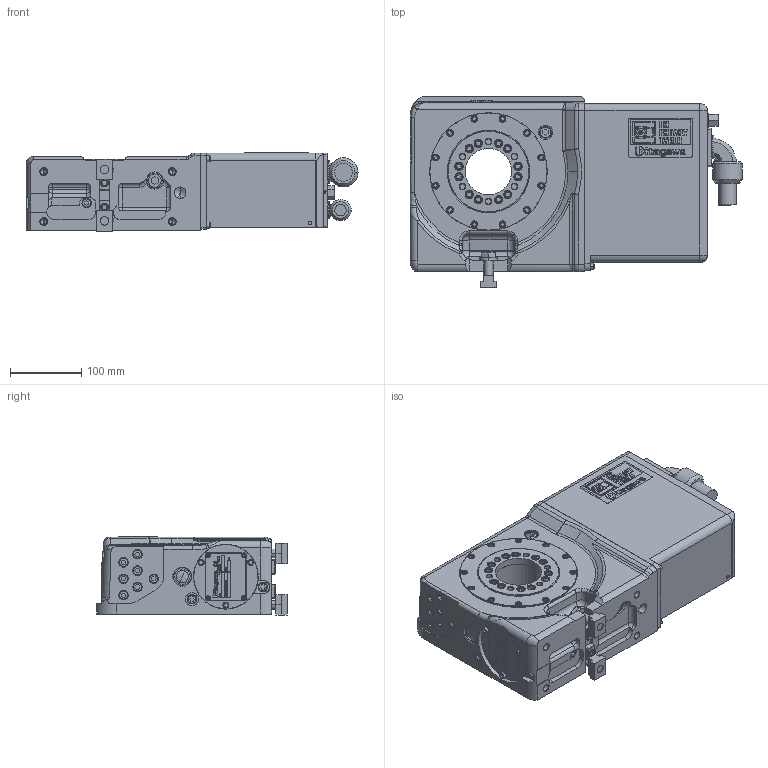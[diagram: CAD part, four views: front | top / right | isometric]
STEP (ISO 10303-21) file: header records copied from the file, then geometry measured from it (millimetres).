
FILE_DESCRIPTION (( 'STEP AP214' ), '1' );
FILE_NAME ('【掲載用】CK160付加軸右勝手.STEP', '2019-10-10T04:39:04', ( '' ), ( '' ), 'SwSTEP 2.0', 'SolidWorks 2017', '' );
FILE_SCHEMA (( 'AUTOMOTIVE_DESIGN' ));
Length unit declared in the file: millimetre
Products named in the file (23): シリンダ(61E8157592)CK160R00; ベアリングプッシュプレート(61E8145801)CKR160R00; クランプキミタテ(61E473251)CK160D1; テーブル(61E8145702)CKR160R00; Tスロットナット１４１２; ベース(61E1132036)CKR160R00; B パーカ　M12×40; ワッシャ １２(61M4266320)VQ100; 【掲載用】CK160付加軸右勝手; CK160RFホンタイ; キタガワシール; ケーブルN29ZS1650; ケーブルN29ZS2554; SMC KQ2E06-02; モータケースカバー(61E8189670)CKR160RF03; モータケース(61E2721840)CKR160RF05(61E269085); ガイドブロック(61M4198752); CK160R00僋儈僞僥(61E5011560); CKR160 チェックバルブ AKB01A-01S-×435; オイルゲージ 257; 僣僶僣僉僾儔僌GFO M20x1.5; 僱乕儉僾儗乕僩丂MB160丂怴儘僑; CKR160　カバー
Assembly tree (24 placements, depth 4):
  【掲載用】CK160付加軸右勝手
    CK160RFホンタイ
      CK160R00僋儈僞僥(61E5011560)
        ベース(61E1132036)CKR160R00
        テーブル(61E8145702)CKR160R00
        ベアリングプッシュプレート(61E8145801)CKR160R00
        シリンダ(61E8157592)CK160R00
        CKR160　カバー
        僱乕儉僾儗乕僩丂MB160丂怴儘僑
        僣僶僣僉僾儔僌GFO M20x1.5
        オイルゲージ 257
        CKR160 チェックバルブ AKB01A-01S-×435
      ガイドブロック(61M4198752)  x2
      モータケース(61E2721840)CKR160RF05(61E269085)
      モータケースカバー(61E8189670)CKR160RF03
      SMC KQ2E06-02
      ケーブルN29ZS2554
      ケーブルN29ZS1650
      キタガワシール
    クランプキミタテ(61E473251)CK160D1  x2
      ワッシャ １２(61M4266320)VQ100
      B パーカ　M12×40
      Tスロットナット１４１２
Bounding box: 465.4 x 267 x 109.35 mm (x, y, z)
Volume: 9209288.9 mm3; surface area: 707870.3 mm2
Topology: 24 solids, 24 shells, 4062 faces, 10420 edges, 6778 vertices
Faces by surface type: plane 2853, cylinder 774, cone 303, bspline 85, torus 31, sphere 16
Entity records: 151900 total; most frequent: CARTESIAN_POINT 32878, ORIENTED_EDGE 20418, DIRECTION 19690, EDGE_CURVE 10209, VECTOR 8096, LINE 8096, VERTEX_POINT 6676, AXIS2_PLACEMENT_3D 5797
